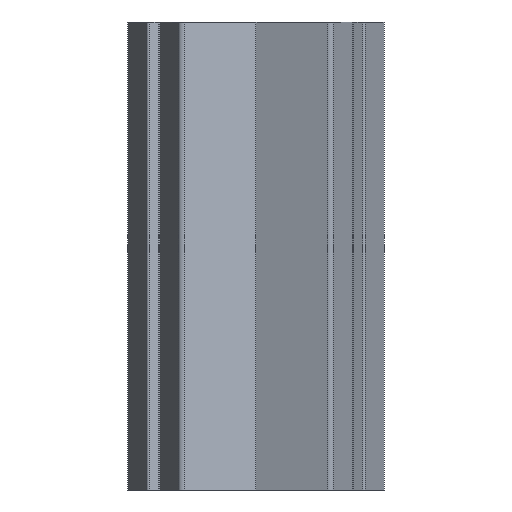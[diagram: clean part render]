
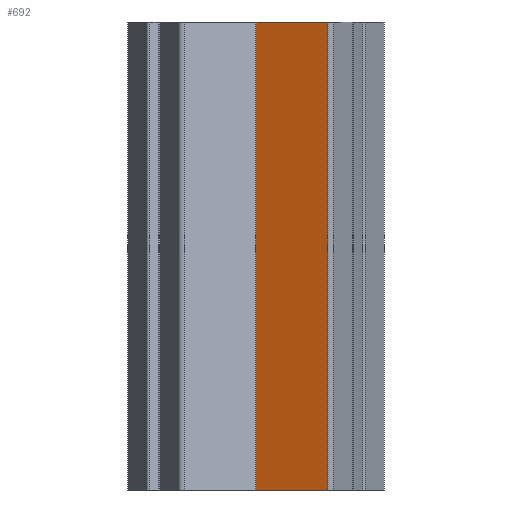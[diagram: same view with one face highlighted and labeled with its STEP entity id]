
A CAD part, front view. The second image highlights one B-rep face of the part: STEP entity #692.
In plain terms, the highlighted planar face has unit normal (-0.383, -0.924, 0).
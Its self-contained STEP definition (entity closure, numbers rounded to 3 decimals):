
#36 = EDGE_LOOP ( 'NONE', ( #1815, #2698, #1317, #115 ) ) ;
#55 = CARTESIAN_POINT ( 'NONE',  ( 15.288, -19.493, 50. ) ) ;
#113 = CARTESIAN_POINT ( 'NONE',  ( 15.288, -19.493, -50. ) ) ;
#115 = ORIENTED_EDGE ( 'NONE', *, *, #1369, .T. ) ;
#161 = LINE ( 'NONE', #2114, #2275 ) ;
#178 = VERTEX_POINT ( 'NONE', #55 ) ;
#211 = PLANE ( 'NONE',  #250 ) ;
#243 = CARTESIAN_POINT ( 'NONE',  ( 0., -13.16, -50. ) ) ;
#250 = AXIS2_PLACEMENT_3D ( 'NONE', #243, #2680, #1239 ) ;
#559 = DIRECTION ( 'NONE',  ( 0., 0., 1. ) ) ;
#692 = ADVANCED_FACE ( 'NONE', ( #3213 ), #211, .T. ) ;
#1083 = EDGE_CURVE ( 'NONE', #1337, #2435, #1162, .T. ) ;
#1129 = EDGE_CURVE ( 'NONE', #1337, #2305, #1736, .T. ) ;
#1162 = LINE ( 'NONE', #1593, #1408 ) ;
#1193 = CARTESIAN_POINT ( 'NONE',  ( 0., -13.16, -50. ) ) ;
#1239 = DIRECTION ( 'NONE',  ( 0.924, -0.383, 0. ) ) ;
#1317 = ORIENTED_EDGE ( 'NONE', *, *, #1129, .T. ) ;
#1337 = VERTEX_POINT ( 'NONE', #2320 ) ;
#1369 = EDGE_CURVE ( 'NONE', #2305, #178, #1806, .T. ) ;
#1408 = VECTOR ( 'NONE', #3091, 1000. ) ;
#1476 = CARTESIAN_POINT ( 'NONE',  ( 0., -13.16, 50. ) ) ;
#1593 = CARTESIAN_POINT ( 'NONE',  ( 0., -13.16, -50. ) ) ;
#1736 = LINE ( 'NONE', #1193, #1934 ) ;
#1806 = LINE ( 'NONE', #2790, #2192 ) ;
#1815 = ORIENTED_EDGE ( 'NONE', *, *, #2314, .F. ) ;
#1834 = DIRECTION ( 'NONE',  ( 0.924, -0.383, 0. ) ) ;
#1934 = VECTOR ( 'NONE', #2224, 1000. ) ;
#2114 = CARTESIAN_POINT ( 'NONE',  ( 0., -13.16, 50. ) ) ;
#2192 = VECTOR ( 'NONE', #559, 1000. ) ;
#2224 = DIRECTION ( 'NONE',  ( 0.924, -0.383, 0. ) ) ;
#2275 = VECTOR ( 'NONE', #1834, 1000. ) ;
#2305 = VERTEX_POINT ( 'NONE', #113 ) ;
#2314 = EDGE_CURVE ( 'NONE', #2435, #178, #161, .T. ) ;
#2320 = CARTESIAN_POINT ( 'NONE',  ( 0., -13.16, -50. ) ) ;
#2435 = VERTEX_POINT ( 'NONE', #1476 ) ;
#2680 = DIRECTION ( 'NONE',  ( -0.383, -0.924, 0. ) ) ;
#2698 = ORIENTED_EDGE ( 'NONE', *, *, #1083, .F. ) ;
#2790 = CARTESIAN_POINT ( 'NONE',  ( 15.288, -19.493, -50. ) ) ;
#3091 = DIRECTION ( 'NONE',  ( 0., 0., 1. ) ) ;
#3213 = FACE_OUTER_BOUND ( 'NONE', #36, .T. ) ;
